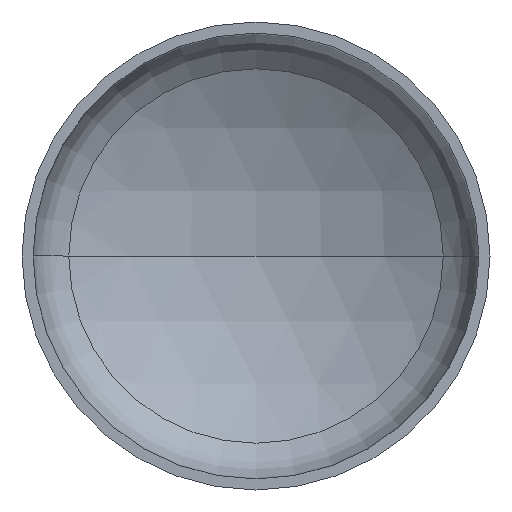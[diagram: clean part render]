
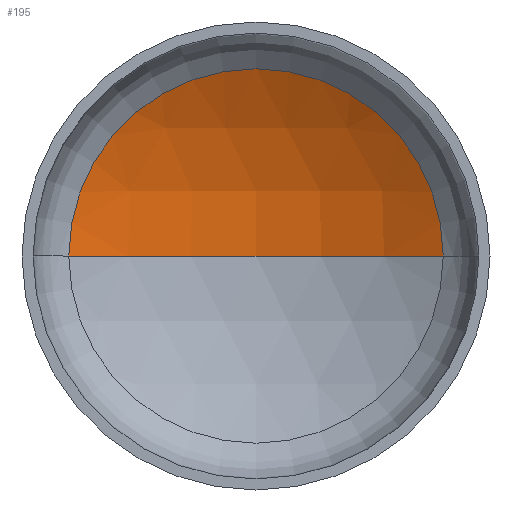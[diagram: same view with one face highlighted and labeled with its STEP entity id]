
A CAD part, front view. The second image highlights one B-rep face of the part: STEP entity #195.
In plain terms, the highlighted spherical face has radius 1520 mm.
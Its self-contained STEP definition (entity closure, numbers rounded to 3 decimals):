
#4 = DIRECTION ( 'NONE',  ( 0., 0., -1. ) ) ;
#17 = AXIS2_PLACEMENT_3D ( 'NONE', #242, #231, #184 ) ;
#23 = EDGE_LOOP ( 'NONE', ( #325, #129, #41 ) ) ;
#24 = FACE_OUTER_BOUND ( 'NONE', #23, .T. ) ;
#28 = AXIS2_PLACEMENT_3D ( 'NONE', #191, #208, #210 ) ;
#33 = AXIS2_PLACEMENT_3D ( 'NONE', #224, #4, #280 ) ;
#34 = AXIS2_PLACEMENT_3D ( 'NONE', #302, #301, #235 ) ;
#41 = ORIENTED_EDGE ( 'NONE', *, *, #73, .T. ) ;
#44 = VERTEX_POINT ( 'NONE', #294 ) ;
#73 = EDGE_CURVE ( 'NONE', #124, #139, #179, .T. ) ;
#110 = EDGE_CURVE ( 'NONE', #44, #124, #293, .T. ) ;
#124 = VERTEX_POINT ( 'NONE', #363 ) ;
#129 = ORIENTED_EDGE ( 'NONE', *, *, #110, .T. ) ;
#137 = EDGE_CURVE ( 'NONE', #44, #139, #358, .T. ) ;
#139 = VERTEX_POINT ( 'NONE', #219 ) ;
#162 = SPHERICAL_SURFACE ( 'NONE', #17, 1520. ) ;
#179 = CIRCLE ( 'NONE', #34, 760. ) ;
#184 = DIRECTION ( 'NONE',  ( -1., 0., 0. ) ) ;
#191 = CARTESIAN_POINT ( 'NONE',  ( 0., -925.211, 0. ) ) ;
#195 = ADVANCED_FACE ( 'NONE', ( #24 ), #162, .F. ) ;
#208 = DIRECTION ( 'NONE',  ( 0., 0., 1. ) ) ;
#210 = DIRECTION ( 'NONE',  ( 1., 0., 0. ) ) ;
#219 = CARTESIAN_POINT ( 'NONE',  ( -760., 391.147, 0. ) ) ;
#224 = CARTESIAN_POINT ( 'NONE',  ( 0., -925.211, 0. ) ) ;
#231 = DIRECTION ( 'NONE',  ( 0., 0., -1. ) ) ;
#235 = DIRECTION ( 'NONE',  ( 1., 0., 0. ) ) ;
#242 = CARTESIAN_POINT ( 'NONE',  ( 0., -925.211, 0. ) ) ;
#280 = DIRECTION ( 'NONE',  ( -1., 0., 0. ) ) ;
#293 = CIRCLE ( 'NONE', #33, 1520. ) ;
#294 = CARTESIAN_POINT ( 'NONE',  ( 0., 594.789, 0. ) ) ;
#301 = DIRECTION ( 'NONE',  ( 0., -1., 0. ) ) ;
#302 = CARTESIAN_POINT ( 'NONE',  ( 0., 391.147, 0. ) ) ;
#325 = ORIENTED_EDGE ( 'NONE', *, *, #137, .F. ) ;
#358 = CIRCLE ( 'NONE', #28, 1520. ) ;
#363 = CARTESIAN_POINT ( 'NONE',  ( 760., 391.147, 0. ) ) ;
